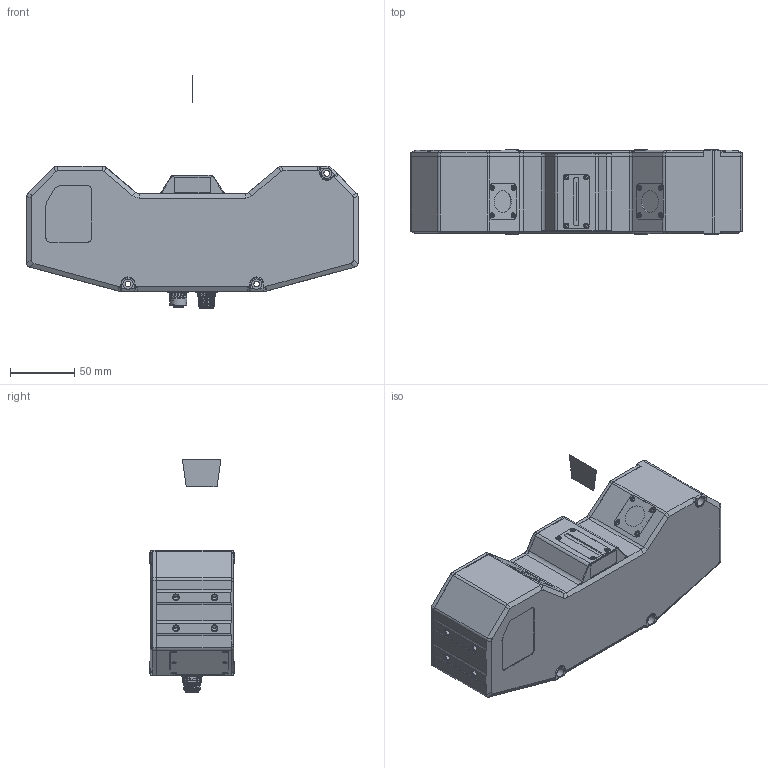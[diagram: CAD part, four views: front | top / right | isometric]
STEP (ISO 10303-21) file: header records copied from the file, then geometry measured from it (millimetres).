
FILE_DESCRIPTION((''),'2;1');
FILE_NAME('00_ALL_DP3060-01D_SW0001','2024-07-31T19:48:36',('duhuaiyuan'),(''),'CREO PARAMETRIC BY PTC INC, 2020044','CREO PARAMETRIC BY PTC INC, 2020044','');
FILE_SCHEMA(('CONFIG_CONTROL_DESIGN'));
Length unit declared in the file: millimetre
Products named in the file (1): 00_ALL_DP3060-01D_SW0001
Bounding box: 258 x 66 x 180.9 mm (x, y, z)
Surface area: 116058 mm2 (no closed solid volume)
Topology: 0 solids, 62 shells, 953 faces, 3002 edges, 2060 vertices
Faces by surface type: plane 428, cylinder 223, cone 169, torus 68, bspline 65
Entity records: 41676 total; most frequent: CARTESIAN_POINT 16012, DIRECTION 5158, ORIENTED_EDGE 5003, EDGE_CURVE 2970, VERTEX_POINT 2060, AXIS2_PLACEMENT_3D 1782, VECTOR 1594, LINE 1594
